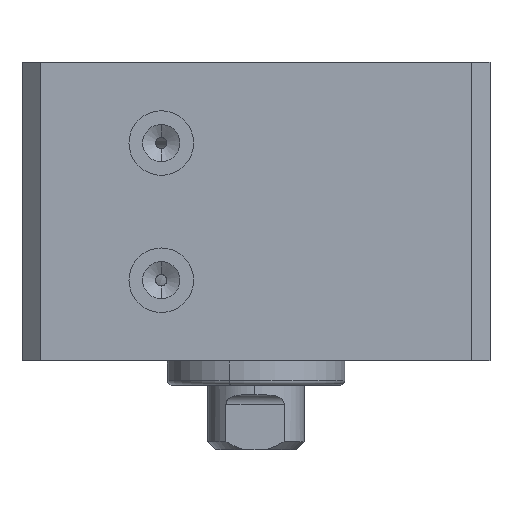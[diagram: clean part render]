
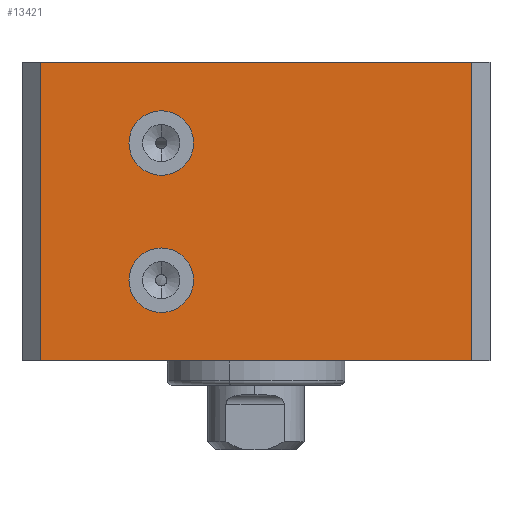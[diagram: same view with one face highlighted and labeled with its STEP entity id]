
A CAD part, front view. The second image highlights one B-rep face of the part: STEP entity #13421.
In plain terms, the highlighted planar face has unit normal (0, -1, 0).
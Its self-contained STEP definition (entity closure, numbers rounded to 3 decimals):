
#446 = ORIENTED_EDGE ( 'NONE', *, *, #9247, .T. ) ;
#570 = ORIENTED_EDGE ( 'NONE', *, *, #1080, .F. ) ;
#795 = DIRECTION ( 'NONE',  ( 0., -1., 0. ) ) ;
#1007 = LINE ( 'NONE', #5590, #3817 ) ;
#1076 = VERTEX_POINT ( 'NONE', #4640 ) ;
#1080 = EDGE_CURVE ( 'NONE', #1835, #2710, #9005, .T. ) ;
#1147 = EDGE_LOOP ( 'NONE', ( #570, #9601 ) ) ;
#1203 = CARTESIAN_POINT ( 'NONE',  ( 8.686, -29.072, 13.5 ) ) ;
#1319 = EDGE_CURVE ( 'NONE', #2207, #6135, #1007, .T. ) ;
#1484 = FACE_BOUND ( 'NONE', #3779, .T. ) ;
#1498 = DIRECTION ( 'NONE',  ( 0., -1., 0. ) ) ;
#1709 = VECTOR ( 'NONE', #2667, 1000. ) ;
#1733 = VECTOR ( 'NONE', #8230, 1000. ) ;
#1835 = VERTEX_POINT ( 'NONE', #3384 ) ;
#2087 = DIRECTION ( 'NONE',  ( 0., -1., 0. ) ) ;
#2151 = VERTEX_POINT ( 'NONE', #4979 ) ;
#2203 = CARTESIAN_POINT ( 'NONE',  ( 6.686, -29.072, 5. ) ) ;
#2207 = VERTEX_POINT ( 'NONE', #10479 ) ;
#2271 = AXIS2_PLACEMENT_3D ( 'NONE', #4817, #12255, #5888 ) ;
#2275 = DIRECTION ( 'NONE',  ( 1., 0., 0. ) ) ;
#2652 = CARTESIAN_POINT ( 'NONE',  ( 1.186, -29.072, 18.5 ) ) ;
#2667 = DIRECTION ( 'NONE',  ( 0., 0., -1. ) ) ;
#2710 = VERTEX_POINT ( 'NONE', #2203 ) ;
#3384 = CARTESIAN_POINT ( 'NONE',  ( 10.686, -29.072, 5. ) ) ;
#3779 = EDGE_LOOP ( 'NONE', ( #9981, #6374 ) ) ;
#3817 = VECTOR ( 'NONE', #7692, 1000. ) ;
#4215 = LINE ( 'NONE', #6078, #1733 ) ;
#4411 = AXIS2_PLACEMENT_3D ( 'NONE', #7167, #795, #8237 ) ;
#4640 = CARTESIAN_POINT ( 'NONE',  ( 1.186, -29.072, 18.5 ) ) ;
#4717 = DIRECTION ( 'NONE',  ( 0., 0., -1. ) ) ;
#4817 = CARTESIAN_POINT ( 'NONE',  ( 8.686, -29.072, 13.5 ) ) ;
#4979 = CARTESIAN_POINT ( 'NONE',  ( 6.686, -29.072, 13.5 ) ) ;
#5009 = PLANE ( 'NONE',  #4411 ) ;
#5012 = ORIENTED_EDGE ( 'NONE', *, *, #1319, .F. ) ;
#5116 = AXIS2_PLACEMENT_3D ( 'NONE', #7867, #1498, #8946 ) ;
#5415 = CARTESIAN_POINT ( 'NONE',  ( 27.926, -29.072, 18.5 ) ) ;
#5590 = CARTESIAN_POINT ( 'NONE',  ( 0., -29.072, 0. ) ) ;
#5888 = DIRECTION ( 'NONE',  ( 1., 0., 0. ) ) ;
#5987 = EDGE_CURVE ( 'NONE', #1076, #6135, #12115, .T. ) ;
#6078 = CARTESIAN_POINT ( 'NONE',  ( 0., -29.072, 18.5 ) ) ;
#6128 = VECTOR ( 'NONE', #4717, 1000. ) ;
#6135 = VERTEX_POINT ( 'NONE', #9183 ) ;
#6159 = CIRCLE ( 'NONE', #10738, 2. ) ;
#6374 = ORIENTED_EDGE ( 'NONE', *, *, #12264, .F. ) ;
#7137 = FACE_BOUND ( 'NONE', #1147, .T. ) ;
#7167 = CARTESIAN_POINT ( 'NONE',  ( 0., -29.072, 18.5 ) ) ;
#7692 = DIRECTION ( 'NONE',  ( -1., 0., 0. ) ) ;
#7699 = ORIENTED_EDGE ( 'NONE', *, *, #10757, .F. ) ;
#7867 = CARTESIAN_POINT ( 'NONE',  ( 8.686, -29.072, 5. ) ) ;
#8024 = CIRCLE ( 'NONE', #2271, 2. ) ;
#8230 = DIRECTION ( 'NONE',  ( -1., 0., 0. ) ) ;
#8237 = DIRECTION ( 'NONE',  ( 1., 0., 0. ) ) ;
#8461 = CARTESIAN_POINT ( 'NONE',  ( 8.686, -29.072, 5. ) ) ;
#8553 = CIRCLE ( 'NONE', #8668, 2. ) ;
#8648 = DIRECTION ( 'NONE',  ( 0., -1., 0. ) ) ;
#8668 = AXIS2_PLACEMENT_3D ( 'NONE', #8461, #2087, #9519 ) ;
#8946 = DIRECTION ( 'NONE',  ( -1., 0., 0. ) ) ;
#9005 = CIRCLE ( 'NONE', #5116, 2. ) ;
#9183 = CARTESIAN_POINT ( 'NONE',  ( 1.186, -29.072, 0. ) ) ;
#9247 = EDGE_CURVE ( 'NONE', #9993, #1076, #4215, .T. ) ;
#9356 = EDGE_CURVE ( 'NONE', #2710, #1835, #8553, .T. ) ;
#9519 = DIRECTION ( 'NONE',  ( -1., 0., 0. ) ) ;
#9583 = ORIENTED_EDGE ( 'NONE', *, *, #5987, .T. ) ;
#9601 = ORIENTED_EDGE ( 'NONE', *, *, #9356, .F. ) ;
#9964 = FACE_OUTER_BOUND ( 'NONE', #11914, .T. ) ;
#9981 = ORIENTED_EDGE ( 'NONE', *, *, #11226, .F. ) ;
#9993 = VERTEX_POINT ( 'NONE', #5415 ) ;
#10088 = VERTEX_POINT ( 'NONE', #12979 ) ;
#10102 = CARTESIAN_POINT ( 'NONE',  ( 27.926, -29.072, 18.5 ) ) ;
#10479 = CARTESIAN_POINT ( 'NONE',  ( 27.926, -29.072, 0. ) ) ;
#10738 = AXIS2_PLACEMENT_3D ( 'NONE', #1203, #8648, #2275 ) ;
#10757 = EDGE_CURVE ( 'NONE', #9993, #2207, #12659, .T. ) ;
#11226 = EDGE_CURVE ( 'NONE', #10088, #2151, #8024, .T. ) ;
#11914 = EDGE_LOOP ( 'NONE', ( #5012, #7699, #446, #9583 ) ) ;
#12115 = LINE ( 'NONE', #2652, #6128 ) ;
#12255 = DIRECTION ( 'NONE',  ( 0., -1., 0. ) ) ;
#12264 = EDGE_CURVE ( 'NONE', #2151, #10088, #6159, .T. ) ;
#12659 = LINE ( 'NONE', #10102, #1709 ) ;
#12979 = CARTESIAN_POINT ( 'NONE',  ( 10.686, -29.072, 13.5 ) ) ;
#13421 = ADVANCED_FACE ( 'NONE', ( #7137, #1484, #9964 ), #5009, .T. ) ;
